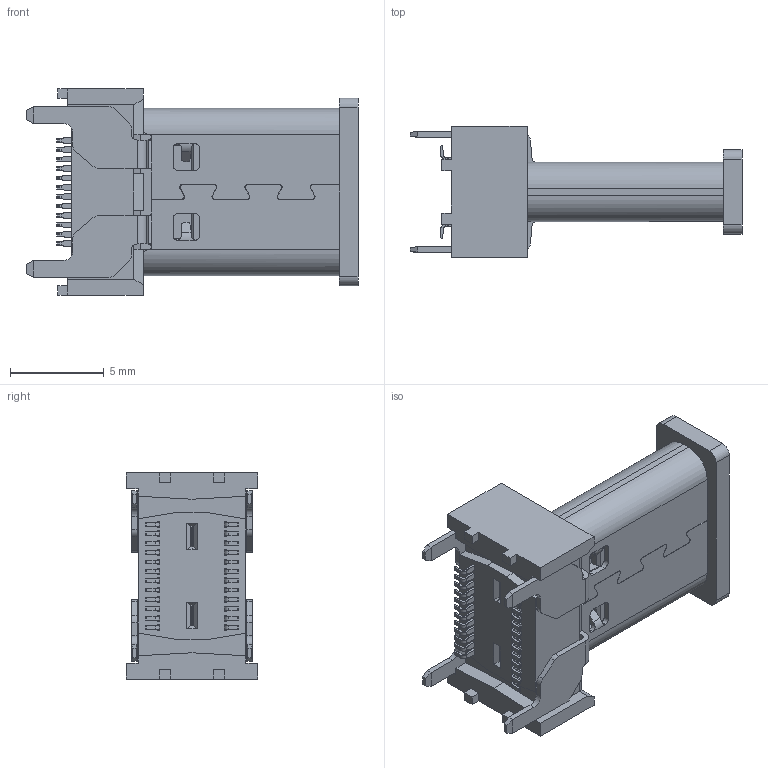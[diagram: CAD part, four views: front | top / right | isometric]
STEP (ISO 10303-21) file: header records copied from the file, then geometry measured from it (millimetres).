
FILE_DESCRIPTION((''),'2;1');
FILE_NAME('_15H00_ASM_-0224_ASM_1_ASM_1__1_ASM','2024-06-12T15:09:30',('HK10285'),('FoxCAVITY'),'CREO PARAMETRIC BY PTC INC, 2021404','CREO PARAMETRIC BY PTC INC, 2021404','');
FILE_SCHEMA(('AUTOMOTIVE_DESIGN { 1 0 10303 214 1 1 1 1 }'));
Length unit declared in the file: millimetre
Products named in the file (3): TYPEC_H15_1_1_1_1_1_1_1_1_1_1_1; COVER__22_1_1_1_1_1_1_1_1_1_1_1; _15H00_ASM_-0224_ASM_1_ASM_1__1_ASM
Assembly tree (2 placements, depth 2):
  _15H00_ASM_-0224_ASM_1_ASM_1__1_ASM
    TYPEC_H15_1_1_1_1_1_1_1_1_1_1_1
    COVER__22_1_1_1_1_1_1_1_1_1_1_1
Bounding box: 17.7 x 7 x 11 mm (x, y, z)
Volume: 472.2 mm3; surface area: 1394 mm2
Topology: 2 solids, 18 shells, 1496 faces, 4180 edges, 2730 vertices
Faces by surface type: plane 1105, cylinder 229, extrusion 116, cone 26, bspline 20
Entity records: 53998 total; most frequent: CARTESIAN_POINT 10892, ORIENTED_EDGE 8360, DIRECTION 7320, EDGE_CURVE 4180, VECTOR 3466, LINE 3350, VERTEX_POINT 2730, AXIS2_PLACEMENT_3D 1927
